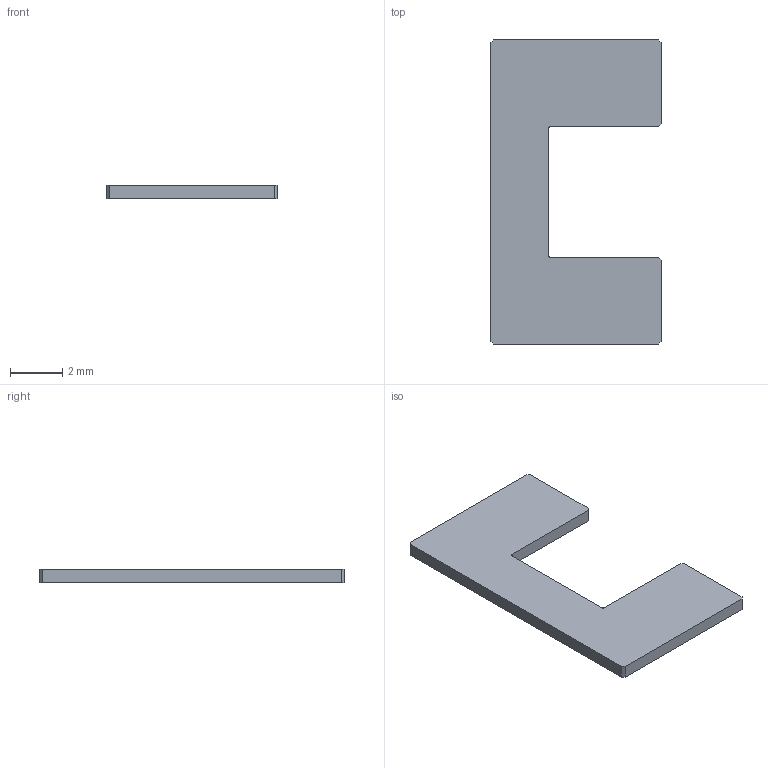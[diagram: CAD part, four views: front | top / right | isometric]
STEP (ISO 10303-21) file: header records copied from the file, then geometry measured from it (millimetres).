
FILE_DESCRIPTION (( 'STEP AP203' ), '1' );
FILE_NAME ('25小位移台的凹型挡片.STEP', '2026-10-15T07:51:39', ( '' ), ( '' ), 'SwSTEP 2.0', 'SolidWorks 2024', '' );
FILE_SCHEMA (( 'CONFIG_CONTROL_DESIGN' ));
Length unit declared in the file: millimetre
Products named in the file (1): 25小位移台的凹型挡片
Bounding box: 6.5 x 11.6 x 0.5 mm (x, y, z)
Volume: 26.9 mm3; surface area: 129.9 mm2
Topology: 1 solids, 1 shells, 18 faces, 48 edges, 32 vertices
Faces by surface type: plane 16, cylinder 2
Entity records: 633 total; most frequent: CARTESIAN_POINT 99, ORIENTED_EDGE 96, DIRECTION 90, EDGE_CURVE 48, LINE 44, VECTOR 44, VERTEX_POINT 32, AXIS2_PLACEMENT_3D 23
